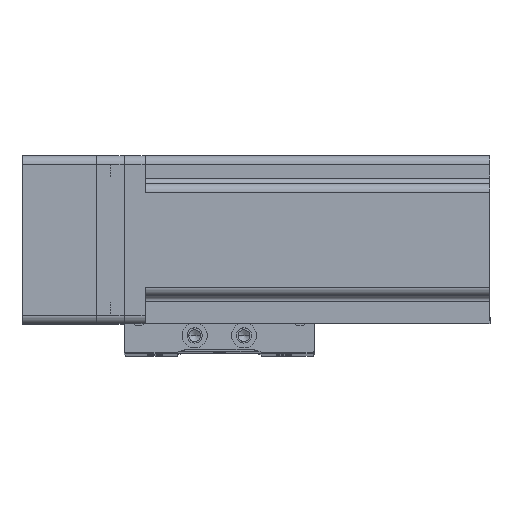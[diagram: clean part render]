
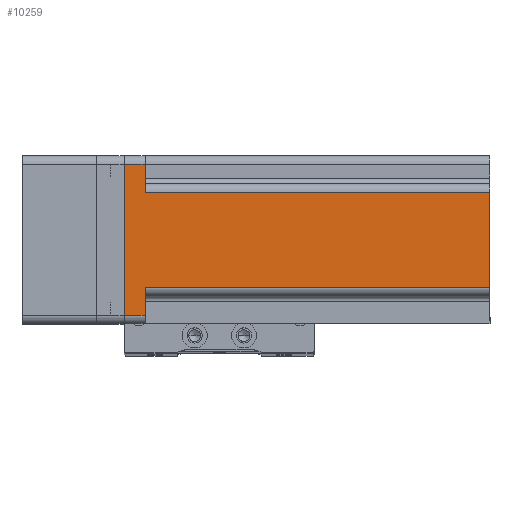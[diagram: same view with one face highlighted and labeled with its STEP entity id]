
A CAD part, top view. The second image highlights one B-rep face of the part: STEP entity #10259.
In plain terms, the highlighted planar face has unit normal (0, 0, 1) as drawn and (0, 1, 0) by its records, which use the part's own axes.
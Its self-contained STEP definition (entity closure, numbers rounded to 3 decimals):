
#1013 = LINE ( 'NONE', #31179, #9389 ) ;
#1445 = CARTESIAN_POINT ( 'NONE',  ( -17., 30., 130.7 ) ) ;
#1635 = VERTEX_POINT ( 'NONE', #1445 ) ;
#2435 = EDGE_CURVE ( 'NONE', #26116, #31833, #28957, .T. ) ;
#2938 = ORIENTED_EDGE ( 'NONE', *, *, #29720, .T. ) ;
#3252 = EDGE_CURVE ( 'NONE', #40437, #42137, #1013, .T. ) ;
#3377 = ORIENTED_EDGE ( 'NONE', *, *, #2435, .T. ) ;
#5375 = DIRECTION ( 'NONE',  ( -1., 0., 0. ) ) ;
#6119 = DIRECTION ( 'NONE',  ( 0., 0., 1. ) ) ;
#6644 = CARTESIAN_POINT ( 'NONE',  ( 30., 30., 0. ) ) ;
#8695 = VECTOR ( 'NONE', #31772, 1000. ) ;
#8953 = CARTESIAN_POINT ( 'NONE',  ( 30., 30., 130.7 ) ) ;
#9389 = VECTOR ( 'NONE', #34787, 1000. ) ;
#9501 = DIRECTION ( 'NONE',  ( 0., 0., -1. ) ) ;
#9729 = ORIENTED_EDGE ( 'NONE', *, *, #3252, .T. ) ;
#9970 = ORIENTED_EDGE ( 'NONE', *, *, #36964, .T. ) ;
#10033 = LINE ( 'NONE', #8953, #18344 ) ;
#10259 = ADVANCED_FACE ( 'NONE', ( #18346 ), #27085, .F. ) ;
#11481 = AXIS2_PLACEMENT_3D ( 'NONE', #34371, #13119, #37941 ) ;
#13119 = DIRECTION ( 'NONE',  ( 0., -1., 0. ) ) ;
#13839 = EDGE_CURVE ( 'NONE', #16285, #32316, #18131, .T. ) ;
#15175 = ORIENTED_EDGE ( 'NONE', *, *, #39518, .F. ) ;
#16285 = VERTEX_POINT ( 'NONE', #18989 ) ;
#17177 = VECTOR ( 'NONE', #6119, 1000. ) ;
#18131 = LINE ( 'NONE', #38760, #8695 ) ;
#18344 = VECTOR ( 'NONE', #44535, 1000. ) ;
#18346 = FACE_OUTER_BOUND ( 'NONE', #30556, .T. ) ;
#18989 = CARTESIAN_POINT ( 'NONE',  ( 17., 30., 130.7 ) ) ;
#19404 = CARTESIAN_POINT ( 'NONE',  ( -27., 30., 7.5 ) ) ;
#19520 = VECTOR ( 'NONE', #40212, 1000. ) ;
#20497 = CARTESIAN_POINT ( 'NONE',  ( -17., 30., 7.5 ) ) ;
#21341 = ORIENTED_EDGE ( 'NONE', *, *, #37564, .T. ) ;
#22255 = VECTOR ( 'NONE', #44735, 1000. ) ;
#22540 = VECTOR ( 'NONE', #9501, 1000. ) ;
#24695 = CARTESIAN_POINT ( 'NONE',  ( -27., 30., 0. ) ) ;
#24948 = VERTEX_POINT ( 'NONE', #40530 ) ;
#26041 = ORIENTED_EDGE ( 'NONE', *, *, #40944, .F. ) ;
#26116 = VERTEX_POINT ( 'NONE', #36720 ) ;
#26627 = CARTESIAN_POINT ( 'NONE',  ( 20., 30., 7.5 ) ) ;
#26966 = LINE ( 'NONE', #26627, #45900 ) ;
#27085 = PLANE ( 'NONE',  #11481 ) ;
#28957 = LINE ( 'NONE', #6644, #19520 ) ;
#29720 = EDGE_CURVE ( 'NONE', #24948, #26116, #38131, .T. ) ;
#30556 = EDGE_LOOP ( 'NONE', ( #9729, #21341, #15175, #35550, #26041, #2938, #3377, #9970 ) ) ;
#30738 = CARTESIAN_POINT ( 'NONE',  ( 27., 30., 130.7 ) ) ;
#31179 = CARTESIAN_POINT ( 'NONE',  ( -20., 30., 7.5 ) ) ;
#31482 = CARTESIAN_POINT ( 'NONE',  ( 17., 30., 7.5 ) ) ;
#31772 = DIRECTION ( 'NONE',  ( 0., 0., -1. ) ) ;
#31833 = VERTEX_POINT ( 'NONE', #24695 ) ;
#32316 = VERTEX_POINT ( 'NONE', #31482 ) ;
#32832 = LINE ( 'NONE', #41276, #22255 ) ;
#34371 = CARTESIAN_POINT ( 'NONE',  ( 30., 30., 130.7 ) ) ;
#34787 = DIRECTION ( 'NONE',  ( 1., 0., 0. ) ) ;
#35550 = ORIENTED_EDGE ( 'NONE', *, *, #13839, .T. ) ;
#36720 = CARTESIAN_POINT ( 'NONE',  ( 27., 30., 0. ) ) ;
#36964 = EDGE_CURVE ( 'NONE', #31833, #40437, #32832, .T. ) ;
#37564 = EDGE_CURVE ( 'NONE', #42137, #1635, #45543, .T. ) ;
#37941 = DIRECTION ( 'NONE',  ( 1., 0., 0. ) ) ;
#38094 = CARTESIAN_POINT ( 'NONE',  ( -17., 30., 130.7 ) ) ;
#38131 = LINE ( 'NONE', #30738, #22540 ) ;
#38760 = CARTESIAN_POINT ( 'NONE',  ( 17., 30., 130.7 ) ) ;
#39518 = EDGE_CURVE ( 'NONE', #16285, #1635, #10033, .T. ) ;
#40212 = DIRECTION ( 'NONE',  ( -1., 0., 0. ) ) ;
#40437 = VERTEX_POINT ( 'NONE', #19404 ) ;
#40530 = CARTESIAN_POINT ( 'NONE',  ( 27., 30., 7.5 ) ) ;
#40944 = EDGE_CURVE ( 'NONE', #24948, #32316, #26966, .T. ) ;
#41276 = CARTESIAN_POINT ( 'NONE',  ( -27., 30., 130.7 ) ) ;
#42137 = VERTEX_POINT ( 'NONE', #20497 ) ;
#44535 = DIRECTION ( 'NONE',  ( -1., 0., 0. ) ) ;
#44735 = DIRECTION ( 'NONE',  ( 0., 0., 1. ) ) ;
#45543 = LINE ( 'NONE', #38094, #17177 ) ;
#45900 = VECTOR ( 'NONE', #5375, 1000. ) ;
